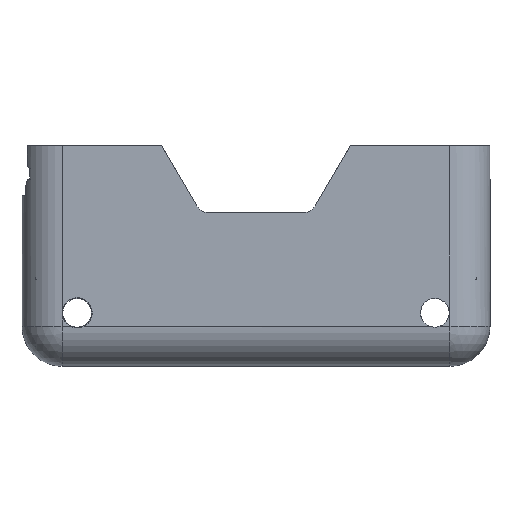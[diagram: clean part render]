
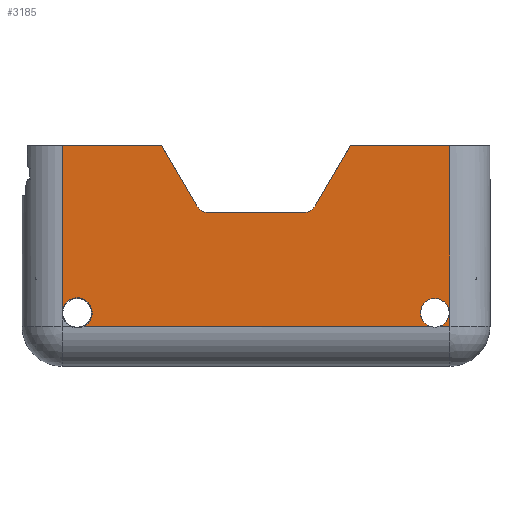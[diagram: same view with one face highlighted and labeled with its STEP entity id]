
A CAD part, left-side view. The second image highlights one B-rep face of the part: STEP entity #3185.
In plain terms, the highlighted planar face has unit normal (-1, 0, 0).
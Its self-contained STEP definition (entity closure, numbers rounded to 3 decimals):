
#68=CIRCLE('',#3214,2.);
#70=CIRCLE('',#3219,2.);
#102=CIRCLE('',#3307,2.25);
#103=CIRCLE('',#3347,2.15);
#179=VERTEX_POINT('',#4196);
#180=VERTEX_POINT('',#4197);
#195=VERTEX_POINT('',#4228);
#197=VERTEX_POINT('',#4234);
#198=VERTEX_POINT('',#4235);
#213=VERTEX_POINT('',#4266);
#238=VERTEX_POINT('',#4333);
#243=VERTEX_POINT('',#4343);
#289=VERTEX_POINT('',#4499);
#316=VERTEX_POINT('',#4618);
#350=VERTEX_POINT('',#4745);
#352=VERTEX_POINT('',#4750);
#353=VERTEX_POINT('',#4785);
#400=VERTEX_POINT('',#5048);
#413=VERTEX_POINT('',#5097);
#502=VECTOR('',#3486,1.);
#518=VECTOR('',#3509,1.);
#533=VECTOR('',#3525,1.);
#556=VECTOR('',#3579,1.);
#610=VECTOR('',#3659,1.);
#644=VECTOR('',#3715,1.);
#687=VECTOR('',#3787,1.);
#688=VECTOR('',#3788,1.);
#897=LINE('',#4195,#502);
#913=LINE('',#4233,#518);
#928=LINE('',#4265,#533);
#951=LINE('',#4332,#556);
#1005=LINE('',#4500,#610);
#1039=LINE('',#4617,#644);
#1082=LINE('',#4749,#687);
#1083=LINE('',#4786,#688);
#1298=EDGE_CURVE('',#179,#180,#897,.T.);
#1314=EDGE_CURVE('',#195,#179,#68,.T.);
#1317=EDGE_CURVE('',#197,#198,#913,.T.);
#1333=EDGE_CURVE('',#213,#195,#928,.T.);
#1340=EDGE_CURVE('',#198,#213,#70,.T.);
#1375=EDGE_CURVE('',#238,#197,#951,.T.);
#1382=EDGE_CURVE('',#180,#243,#951,.T.);
#1442=EDGE_CURVE('',#289,#243,#1005,.T.);
#1491=EDGE_CURVE('',#238,#316,#1039,.T.);
#1547=EDGE_CURVE('',#316,#352,#1082,.T.);
#1549=EDGE_CURVE('',#353,#350,#1083,.T.);
#1650=EDGE_CURVE('',#400,#352,#103,.T.);
#1651=EDGE_CURVE('',#353,#400,#103,.T.);
#1676=EDGE_CURVE('',#413,#350,#102,.T.);
#1677=EDGE_CURVE('',#289,#413,#102,.T.);
#2629=ORIENTED_EDGE('',*,*,#1298,.T.);
#2630=ORIENTED_EDGE('',*,*,#1382,.T.);
#2631=ORIENTED_EDGE('',*,*,#1442,.F.);
#2632=ORIENTED_EDGE('',*,*,#1677,.T.);
#2633=ORIENTED_EDGE('',*,*,#1676,.T.);
#2634=ORIENTED_EDGE('',*,*,#1549,.F.);
#2635=ORIENTED_EDGE('',*,*,#1651,.T.);
#2636=ORIENTED_EDGE('',*,*,#1650,.T.);
#2637=ORIENTED_EDGE('',*,*,#1547,.F.);
#2638=ORIENTED_EDGE('',*,*,#1491,.F.);
#2639=ORIENTED_EDGE('',*,*,#1375,.T.);
#2640=ORIENTED_EDGE('',*,*,#1317,.T.);
#2641=ORIENTED_EDGE('',*,*,#1340,.T.);
#2642=ORIENTED_EDGE('',*,*,#1333,.T.);
#2643=ORIENTED_EDGE('',*,*,#1314,.T.);
#2827=EDGE_LOOP('',(#2629,#2630,#2631,#2632,#2633,#2634,#2635,#2636,#2637,
#2638,#2639,#2640,#2641,#2642,#2643));
#3011=FACE_BOUND('',#2827,.T.);
#3185=ADVANCED_FACE('',(#3011),#5179,.T.);
#3214=AXIS2_PLACEMENT_3D('',#4227,#3503,#3504);
#3219=AXIS2_PLACEMENT_3D('',#4277,#3532,#3533);
#3306=AXIS2_PLACEMENT_3D('',#4884,#3826,$);
#3307=AXIS2_PLACEMENT_3D('',#4885,#3827,#3828);
#3347=AXIS2_PLACEMENT_3D('',#5047,#3951,#3952);
#3486=DIRECTION('',(0.,0.506,0.862));
#3503=DIRECTION('',(1.,0.,0.));
#3504=DIRECTION('',(0.,0.,-2.));
#3509=DIRECTION('',(0.,0.506,-0.862));
#3525=DIRECTION('',(0.,1.,0.));
#3532=DIRECTION('',(1.,0.,0.));
#3533=DIRECTION('',(0.,0.,-2.));
#3579=DIRECTION('',(0.,1.,0.));
#3659=DIRECTION('',(0.,0.,1.));
#3715=DIRECTION('',(0.,0.,-1.));
#3787=DIRECTION('',(0.,1.,0.));
#3788=DIRECTION('',(0.,1.,0.));
#3826=DIRECTION('',(-1.,0.,0.));
#3827=DIRECTION('',(1.,0.,0.));
#3828=DIRECTION('',(0.,0.,2.25));
#3951=DIRECTION('',(1.,0.,0.));
#3952=DIRECTION('',(0.,0.,2.15));
#4195=CARTESIAN_POINT('',(-29.,3.806,15.389));
#4196=CARTESIAN_POINT('',(-29.,8.855,23.987));
#4197=CARTESIAN_POINT('',(-29.,14.148,33.));
#4227=CARTESIAN_POINT('',(-29.,7.131,25.));
#4228=CARTESIAN_POINT('',(-29.,7.131,23.));
#4233=CARTESIAN_POINT('',(-29.,-3.806,15.389));
#4234=CARTESIAN_POINT('',(-29.,-14.148,33.));
#4235=CARTESIAN_POINT('',(-29.,-8.855,23.987));
#4265=CARTESIAN_POINT('',(-29.,1.783,23.));
#4266=CARTESIAN_POINT('',(-29.,-7.131,23.));
#4277=CARTESIAN_POINT('',(-29.,-7.131,25.));
#4332=CARTESIAN_POINT('',(-29.,35.,33.));
#4333=CARTESIAN_POINT('',(-29.,-29.,33.));
#4343=CARTESIAN_POINT('',(-29.,29.,33.));
#4499=CARTESIAN_POINT('',(-29.,29.,8.));
#4500=CARTESIAN_POINT('',(-29.,29.,0.));
#4617=CARTESIAN_POINT('',(-29.,-29.,0.));
#4618=CARTESIAN_POINT('',(-29.,-29.,6.));
#4745=CARTESIAN_POINT('',(-29.,25.719,6.));
#4749=CARTESIAN_POINT('',(-29.,0.,6.));
#4750=CARTESIAN_POINT('',(-29.,-27.539,6.));
#4785=CARTESIAN_POINT('',(-29.,-25.961,6.));
#4786=CARTESIAN_POINT('',(-29.,0.,6.));
#4884=CARTESIAN_POINT('',(-29.,0.,0.));
#4885=CARTESIAN_POINT('',(-29.,26.75,8.));
#5047=CARTESIAN_POINT('',(-29.,-26.75,8.));
#5048=CARTESIAN_POINT('',(-29.,-26.75,10.15));
#5097=CARTESIAN_POINT('',(-29.,26.75,10.25));
#5179=PLANE('',#3306);
